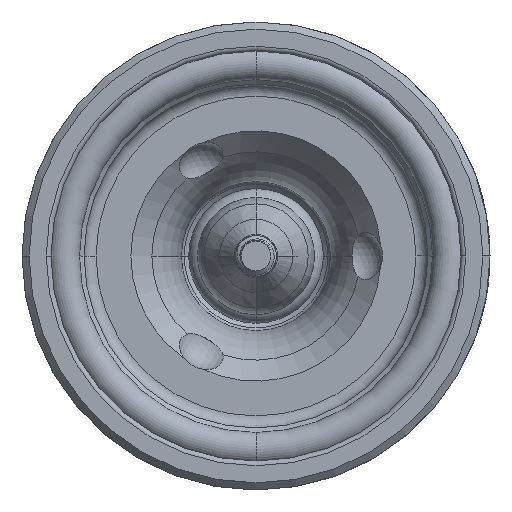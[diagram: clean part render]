
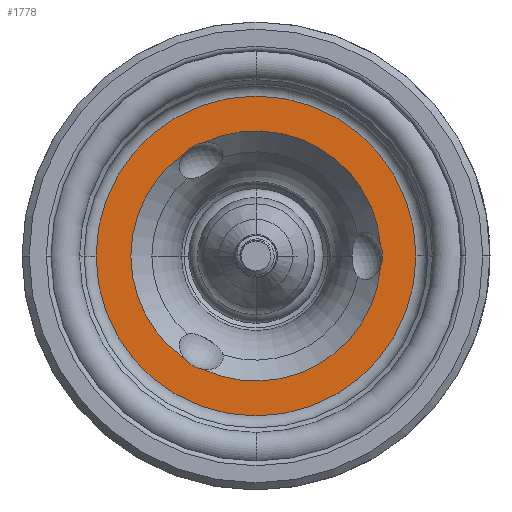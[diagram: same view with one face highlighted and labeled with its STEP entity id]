
A CAD part, front view. The second image highlights one B-rep face of the part: STEP entity #1778.
In plain terms, the highlighted planar face has unit normal (0, -1, 0).
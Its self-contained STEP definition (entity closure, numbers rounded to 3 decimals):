
#119 = FACE_BOUND ( 'NONE', #4850, .T. ) ;
#284 = ORIENTED_EDGE ( 'NONE', *, *, #8915, .T. ) ;
#464 = VERTEX_POINT ( 'NONE', #6953 ) ;
#496 = DIRECTION ( 'NONE',  ( 0., -1., 0. ) ) ;
#701 = AXIS2_PLACEMENT_3D ( 'NONE', #7407, #2122, #3581 ) ;
#745 = DIRECTION ( 'NONE',  ( 0., 1., 0. ) ) ;
#808 = CIRCLE ( 'NONE', #10003, 6.655 ) ;
#991 = CARTESIAN_POINT ( 'NONE',  ( 0., 6., 0. ) ) ;
#1522 = CARTESIAN_POINT ( 'NONE',  ( 8.509, 6., 0. ) ) ;
#1576 = VERTEX_POINT ( 'NONE', #4655 ) ;
#1650 = CARTESIAN_POINT ( 'NONE',  ( -2.838, 6., -6.019 ) ) ;
#1711 = CIRCLE ( 'NONE', #6558, 6.655 ) ;
#1778 = ADVANCED_FACE ( 'NONE', ( #7991, #119 ), #5517, .F. ) ;
#2002 = CARTESIAN_POINT ( 'NONE',  ( -2.572, 6., -4.454 ) ) ;
#2114 = AXIS2_PLACEMENT_3D ( 'NONE', #1522, #745, #5618 ) ;
#2121 = AXIS2_PLACEMENT_3D ( 'NONE', #9199, #4508, #8454 ) ;
#2122 = DIRECTION ( 'NONE',  ( 0., 1., 0. ) ) ;
#2207 = EDGE_CURVE ( 'NONE', #9504, #5680, #7306, .T. ) ;
#2645 = CARTESIAN_POINT ( 'NONE',  ( -2.572, 6., 4.454 ) ) ;
#2867 = AXIS2_PLACEMENT_3D ( 'NONE', #2645, #6532, #5819 ) ;
#3120 = EDGE_CURVE ( 'NONE', #10210, #5680, #8555, .T. ) ;
#3151 = ORIENTED_EDGE ( 'NONE', *, *, #8846, .F. ) ;
#3330 = DIRECTION ( 'NONE',  ( 0., 1., 0. ) ) ;
#3581 = DIRECTION ( 'NONE',  ( -1., 0., 0. ) ) ;
#3672 = VERTEX_POINT ( 'NONE', #1650 ) ;
#3791 = DIRECTION ( 'NONE',  ( -1., 0., 0. ) ) ;
#4175 = CARTESIAN_POINT ( 'NONE',  ( 0., 6., 0. ) ) ;
#4405 = CIRCLE ( 'NONE', #4911, 1.587 ) ;
#4508 = DIRECTION ( 'NONE',  ( 0., -1., 0. ) ) ;
#4655 = CARTESIAN_POINT ( 'NONE',  ( -8.509, 6., 0. ) ) ;
#4733 = AXIS2_PLACEMENT_3D ( 'NONE', #5956, #6005, #3791 ) ;
#4850 = EDGE_LOOP ( 'NONE', ( #3151, #9495, #6374, #10265, #6508, #284 ) ) ;
#4909 = CIRCLE ( 'NONE', #4733, 8.509 ) ;
#4911 = AXIS2_PLACEMENT_3D ( 'NONE', #2002, #496, #7526 ) ;
#5517 = PLANE ( 'NONE',  #2114 ) ;
#5618 = DIRECTION ( 'NONE',  ( -1., 0., 0. ) ) ;
#5621 = DIRECTION ( 'NONE',  ( 0., 1., 0. ) ) ;
#5660 = CARTESIAN_POINT ( 'NONE',  ( -2.838, 6., 6.019 ) ) ;
#5680 = VERTEX_POINT ( 'NONE', #5705 ) ;
#5705 = CARTESIAN_POINT ( 'NONE',  ( 6.632, 6., 0.552 ) ) ;
#5749 = ORIENTED_EDGE ( 'NONE', *, *, #9529, .F. ) ;
#5785 = CARTESIAN_POINT ( 'NONE',  ( 0., 6., 0. ) ) ;
#5819 = DIRECTION ( 'NONE',  ( -1., 0., 0. ) ) ;
#5956 = CARTESIAN_POINT ( 'NONE',  ( 0., 6., 0. ) ) ;
#6005 = DIRECTION ( 'NONE',  ( 0., 1., 0. ) ) ;
#6207 = CARTESIAN_POINT ( 'NONE',  ( 8.509, 6., 0. ) ) ;
#6374 = ORIENTED_EDGE ( 'NONE', *, *, #2207, .F. ) ;
#6508 = ORIENTED_EDGE ( 'NONE', *, *, #8149, .F. ) ;
#6532 = DIRECTION ( 'NONE',  ( 0., -1., 0. ) ) ;
#6558 = AXIS2_PLACEMENT_3D ( 'NONE', #4175, #7361, #9123 ) ;
#6757 = EDGE_CURVE ( 'NONE', #1576, #9058, #9207, .T. ) ;
#6953 = CARTESIAN_POINT ( 'NONE',  ( -3.794, 6., 5.467 ) ) ;
#7306 = CIRCLE ( 'NONE', #2121, 1.587 ) ;
#7361 = DIRECTION ( 'NONE',  ( 0., 1., 0. ) ) ;
#7371 = DIRECTION ( 'NONE',  ( -1., 0., 0. ) ) ;
#7407 = CARTESIAN_POINT ( 'NONE',  ( 0., 6., 0. ) ) ;
#7526 = DIRECTION ( 'NONE',  ( -1., 0., 0. ) ) ;
#7991 = FACE_OUTER_BOUND ( 'NONE', #9195, .T. ) ;
#8149 = EDGE_CURVE ( 'NONE', #10035, #3672, #4405, .T. ) ;
#8454 = DIRECTION ( 'NONE',  ( -1., 0., 0. ) ) ;
#8555 = CIRCLE ( 'NONE', #9235, 6.655 ) ;
#8846 = EDGE_CURVE ( 'NONE', #10210, #464, #9714, .T. ) ;
#8915 = EDGE_CURVE ( 'NONE', #10035, #464, #1711, .T. ) ;
#9058 = VERTEX_POINT ( 'NONE', #6207 ) ;
#9123 = DIRECTION ( 'NONE',  ( -1., 0., 0. ) ) ;
#9195 = EDGE_LOOP ( 'NONE', ( #9640, #5749 ) ) ;
#9199 = CARTESIAN_POINT ( 'NONE',  ( 5.144, 6., 0. ) ) ;
#9207 = CIRCLE ( 'NONE', #701, 8.509 ) ;
#9235 = AXIS2_PLACEMENT_3D ( 'NONE', #5785, #5621, #9785 ) ;
#9495 = ORIENTED_EDGE ( 'NONE', *, *, #3120, .T. ) ;
#9504 = VERTEX_POINT ( 'NONE', #9959 ) ;
#9529 = EDGE_CURVE ( 'NONE', #9058, #1576, #4909, .T. ) ;
#9640 = ORIENTED_EDGE ( 'NONE', *, *, #6757, .F. ) ;
#9714 = CIRCLE ( 'NONE', #2867, 1.587 ) ;
#9785 = DIRECTION ( 'NONE',  ( -1., 0., 0. ) ) ;
#9959 = CARTESIAN_POINT ( 'NONE',  ( 6.632, 6., -0.552 ) ) ;
#10003 = AXIS2_PLACEMENT_3D ( 'NONE', #991, #3330, #7371 ) ;
#10035 = VERTEX_POINT ( 'NONE', #10147 ) ;
#10147 = CARTESIAN_POINT ( 'NONE',  ( -3.794, 6., -5.467 ) ) ;
#10210 = VERTEX_POINT ( 'NONE', #5660 ) ;
#10262 = EDGE_CURVE ( 'NONE', #9504, #3672, #808, .T. ) ;
#10265 = ORIENTED_EDGE ( 'NONE', *, *, #10262, .T. ) ;
